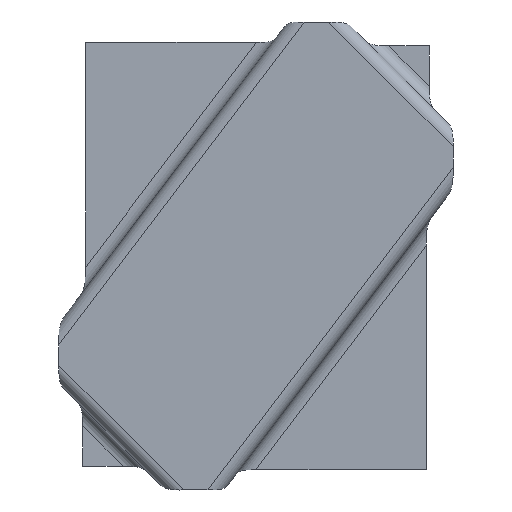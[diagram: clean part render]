
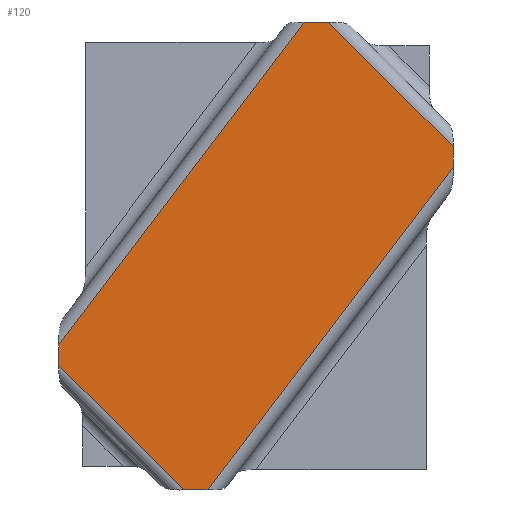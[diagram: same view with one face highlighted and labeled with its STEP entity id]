
A CAD part, top view. The second image highlights one B-rep face of the part: STEP entity #120.
In plain terms, the highlighted planar face has unit normal (0, 0, -1).
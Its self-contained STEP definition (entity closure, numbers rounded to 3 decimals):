
#53=CARTESIAN_POINT('Axis2P3D Location',(-51.462,39.088,65.124)) ;
#59=CARTESIAN_POINT('Control Point',(-51.462,78.441,65.124)) ;
#60=CARTESIAN_POINT('Control Point',(15.109,166.088,65.124)) ;
#61=CARTESIAN_POINT('Vertex',(-51.462,78.441,65.124)) ;
#63=CARTESIAN_POINT('Vertex',(15.109,166.088,65.124)) ;
#66=CARTESIAN_POINT('Line Origine',(2.038,166.088,65.124)) ;
#70=CARTESIAN_POINT('Vertex',(21.712,166.088,65.124)) ;
#74=CARTESIAN_POINT('Control Point',(21.712,166.088,65.124)) ;
#75=CARTESIAN_POINT('Control Point',(55.538,132.262,65.124)) ;
#76=CARTESIAN_POINT('Vertex',(55.538,132.262,65.124)) ;
#79=CARTESIAN_POINT('Line Origine',(55.538,102.588,65.124)) ;
#83=CARTESIAN_POINT('Vertex',(55.538,126.674,65.124)) ;
#87=CARTESIAN_POINT('Control Point',(55.538,126.674,65.124)) ;
#88=CARTESIAN_POINT('Control Point',(-10.988,39.088,65.124)) ;
#89=CARTESIAN_POINT('Vertex',(-10.988,39.088,65.124)) ;
#92=CARTESIAN_POINT('Line Origine',(2.038,39.088,65.124)) ;
#96=CARTESIAN_POINT('Vertex',(-17.636,39.088,65.124)) ;
#100=CARTESIAN_POINT('Control Point',(-51.462,72.914,65.124)) ;
#101=CARTESIAN_POINT('Control Point',(-17.636,39.088,65.124)) ;
#102=CARTESIAN_POINT('Vertex',(-51.462,72.914,65.124)) ;
#105=CARTESIAN_POINT('Line Origine',(-51.462,102.588,65.124)) ;
#54=DIRECTION('Axis2P3D Direction',(0.,0.,1.)) ;
#55=DIRECTION('Axis2P3D XDirection',(1.,0.,0.)) ;
#67=DIRECTION('Vector Direction',(1.,0.,0.)) ;
#80=DIRECTION('Vector Direction',(0.,1.,0.)) ;
#93=DIRECTION('Vector Direction',(1.,0.,0.)) ;
#106=DIRECTION('Vector Direction',(0.,1.,0.)) ;
#56=AXIS2_PLACEMENT_3D('Plane Axis2P3D',#53,#54,#55) ;
#111=ORIENTED_EDGE('',*,*,#65,.T.) ;
#112=ORIENTED_EDGE('',*,*,#72,.T.) ;
#113=ORIENTED_EDGE('',*,*,#78,.T.) ;
#114=ORIENTED_EDGE('',*,*,#85,.T.) ;
#115=ORIENTED_EDGE('',*,*,#91,.T.) ;
#116=ORIENTED_EDGE('',*,*,#98,.T.) ;
#117=ORIENTED_EDGE('',*,*,#104,.F.) ;
#118=ORIENTED_EDGE('',*,*,#109,.T.) ;
#68=VECTOR('Line Direction',#67,1.) ;
#81=VECTOR('Line Direction',#80,1.) ;
#94=VECTOR('Line Direction',#93,1.) ;
#107=VECTOR('Line Direction',#106,1.) ;
#120=ADVANCED_FACE('Offset.1',(#119),#57,.F.) ;
#58=B_SPLINE_CURVE_WITH_KNOTS('',1,(#59,#60),.UNSPECIFIED.,.F.,.U.,(2,2),(-55.031,55.031),.UNSPECIFIED.) ;
#73=B_SPLINE_CURVE_WITH_KNOTS('',1,(#74,#75),.UNSPECIFIED.,.F.,.U.,(2,2),(-23.919,23.919),.UNSPECIFIED.) ;
#86=B_SPLINE_CURVE_WITH_KNOTS('',1,(#87,#88),.UNSPECIFIED.,.F.,.U.,(2,2),(-54.993,54.993),.UNSPECIFIED.) ;
#99=B_SPLINE_CURVE_WITH_KNOTS('',1,(#100,#101),.UNSPECIFIED.,.F.,.U.,(2,2),(-23.919,23.919),.UNSPECIFIED.) ;
#65=EDGE_CURVE('',#62,#64,#58,.T.) ;
#72=EDGE_CURVE('',#64,#71,#69,.T.) ;
#78=EDGE_CURVE('',#71,#77,#73,.T.) ;
#85=EDGE_CURVE('',#77,#84,#82,.F.) ;
#91=EDGE_CURVE('',#84,#90,#86,.T.) ;
#98=EDGE_CURVE('',#90,#97,#95,.F.) ;
#104=EDGE_CURVE('',#103,#97,#99,.T.) ;
#109=EDGE_CURVE('',#103,#62,#108,.T.) ;
#110=EDGE_LOOP('',(#111,#112,#113,#114,#115,#116,#117,#118)) ;
#119=FACE_OUTER_BOUND('',#110,.T.) ;
#69=LINE('Line',#66,#68) ;
#82=LINE('Line',#79,#81) ;
#95=LINE('Line',#92,#94) ;
#108=LINE('Line',#105,#107) ;
#57=PLANE('',#56) ;
#62=VERTEX_POINT('',#61) ;
#64=VERTEX_POINT('',#63) ;
#71=VERTEX_POINT('',#70) ;
#77=VERTEX_POINT('',#76) ;
#84=VERTEX_POINT('',#83) ;
#90=VERTEX_POINT('',#89) ;
#97=VERTEX_POINT('',#96) ;
#103=VERTEX_POINT('',#102) ;
